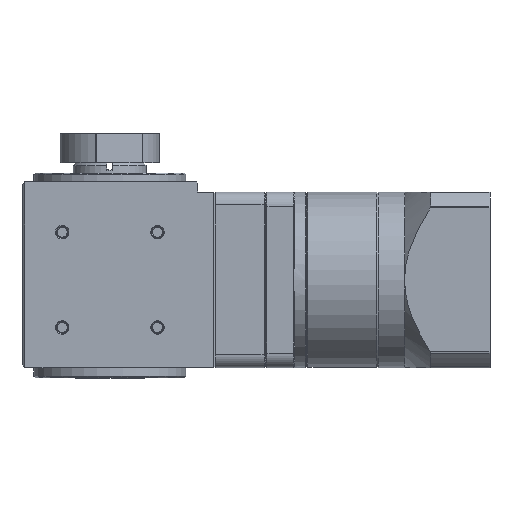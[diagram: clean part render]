
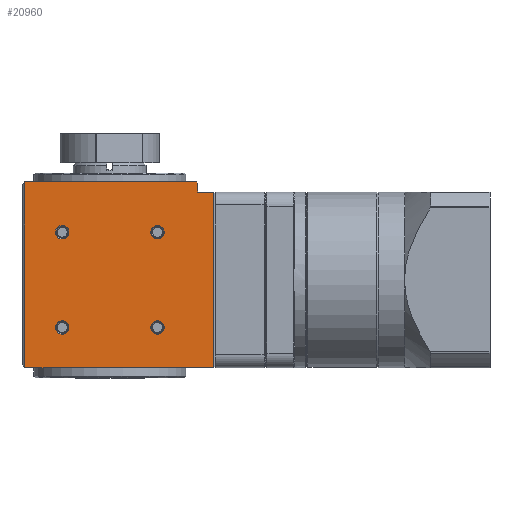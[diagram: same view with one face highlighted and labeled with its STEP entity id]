
A CAD part, left-side view. The second image highlights one B-rep face of the part: STEP entity #20960.
In plain terms, the highlighted planar face has unit normal (-1, 0, 0).
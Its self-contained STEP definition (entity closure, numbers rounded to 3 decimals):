
#48 = EDGE_CURVE ( 'NONE', #23833, #23833, #22683, .T. ) ;
#700 = EDGE_CURVE ( 'NONE', #32166, #28339, #12822, .T. ) ;
#1812 = CIRCLE ( 'NONE', #22672, 2.3 ) ;
#2095 = DIRECTION ( 'NONE',  ( 0., 0., 1. ) ) ;
#2248 = CARTESIAN_POINT ( 'NONE',  ( -30., -35.5, 0. ) ) ;
#2442 = LINE ( 'NONE', #42670, #21232 ) ;
#3472 = CARTESIAN_POINT ( 'NONE',  ( -30., -35.5, 60. ) ) ;
#3615 = DIRECTION ( 'NONE',  ( 0., 0., -1. ) ) ;
#4093 = VECTOR ( 'NONE', #3615, 1000. ) ;
#4177 = AXIS2_PLACEMENT_3D ( 'NONE', #43706, #39087, #34516 ) ;
#5269 = ORIENTED_EDGE ( 'NONE', *, *, #33826, .T. ) ;
#6177 = EDGE_CURVE ( 'NONE', #43648, #14212, #11275, .T. ) ;
#6500 = FACE_BOUND ( 'NONE', #7825, .T. ) ;
#6678 = CARTESIAN_POINT ( 'NONE',  ( -30., -35.5, 63.5 ) ) ;
#6725 = CIRCLE ( 'NONE', #41989, 2.3 ) ;
#7122 = ORIENTED_EDGE ( 'NONE', *, *, #39969, .T. ) ;
#7468 = ORIENTED_EDGE ( 'NONE', *, *, #48, .T. ) ;
#7513 = CARTESIAN_POINT ( 'NONE',  ( -30., -30., 60. ) ) ;
#7658 = FACE_BOUND ( 'NONE', #38059, .T. ) ;
#7825 = EDGE_LOOP ( 'NONE', ( #39759 ) ) ;
#7830 = VECTOR ( 'NONE', #28517, 1000. ) ;
#8046 = PLANE ( 'NONE',  #4177 ) ;
#8217 = CARTESIAN_POINT ( 'NONE',  ( -30., 29., 63.5 ) ) ;
#8345 = DIRECTION ( 'NONE',  ( 0., 1., 0. ) ) ;
#8590 = VECTOR ( 'NONE', #20761, 1000. ) ;
#8827 = FACE_BOUND ( 'NONE', #32640, .T. ) ;
#9360 = VERTEX_POINT ( 'NONE', #7513 ) ;
#10490 = DIRECTION ( 'NONE',  ( 0., 1., 0. ) ) ;
#11141 = FACE_BOUND ( 'NONE', #15345, .T. ) ;
#11275 = LINE ( 'NONE', #6678, #43464 ) ;
#12822 = LINE ( 'NONE', #8217, #4093 ) ;
#12948 = DIRECTION ( 'NONE',  ( 1., 0., 0. ) ) ;
#13077 = VECTOR ( 'NONE', #23792, 1000. ) ;
#13463 = FACE_OUTER_BOUND ( 'NONE', #32024, .T. ) ;
#14212 = VERTEX_POINT ( 'NONE', #3472 ) ;
#14441 = CARTESIAN_POINT ( 'NONE',  ( -30., 29., 63.5 ) ) ;
#14719 = ORIENTED_EDGE ( 'NONE', *, *, #6177, .T. ) ;
#14988 = VERTEX_POINT ( 'NONE', #19973 ) ;
#15089 = DIRECTION ( 'NONE',  ( 1., 0., 0. ) ) ;
#15345 = EDGE_LOOP ( 'NONE', ( #7122 ) ) ;
#15432 = EDGE_CURVE ( 'NONE', #32166, #21067, #37169, .T. ) ;
#15822 = ORIENTED_EDGE ( 'NONE', *, *, #16631, .T. ) ;
#16631 = EDGE_CURVE ( 'NONE', #28339, #43648, #32990, .T. ) ;
#16845 = ORIENTED_EDGE ( 'NONE', *, *, #38980, .T. ) ;
#16870 = CARTESIAN_POINT ( 'NONE',  ( -30., 29., 0. ) ) ;
#18018 = ORIENTED_EDGE ( 'NONE', *, *, #700, .T. ) ;
#19254 = CARTESIAN_POINT ( 'NONE',  ( -30., -13.963, 13.737 ) ) ;
#19660 = CARTESIAN_POINT ( 'NONE',  ( -30., -16.263, 46.263 ) ) ;
#19733 = EDGE_CURVE ( 'NONE', #28912, #28912, #1812, .T. ) ;
#19856 = CARTESIAN_POINT ( 'NONE',  ( -30., 16.263, 46.263 ) ) ;
#19973 = CARTESIAN_POINT ( 'NONE',  ( -30., -30., 63. ) ) ;
#20761 = DIRECTION ( 'NONE',  ( 0., 0.707, 0.707 ) ) ;
#20960 = ADVANCED_FACE ( 'NONE', ( #7658, #6500, #8827, #11141, #13463 ), #8046, .F. ) ;
#21067 = VERTEX_POINT ( 'NONE', #31524 ) ;
#21232 = VECTOR ( 'NONE', #38062, 1000. ) ;
#22107 = CARTESIAN_POINT ( 'NONE',  ( -30., -16.263, 13.737 ) ) ;
#22284 = VECTOR ( 'NONE', #27983, 1000. ) ;
#22593 = ORIENTED_EDGE ( 'NONE', *, *, #15432, .F. ) ;
#22672 = AXIS2_PLACEMENT_3D ( 'NONE', #19660, #15089, #10490 ) ;
#22683 = CIRCLE ( 'NONE', #31386, 2.3 ) ;
#23792 = DIRECTION ( 'NONE',  ( 0., -1., 0. ) ) ;
#23833 = VERTEX_POINT ( 'NONE', #19254 ) ;
#24309 = CARTESIAN_POINT ( 'NONE',  ( -30., -13.963, 46.263 ) ) ;
#24514 = EDGE_CURVE ( 'NONE', #14988, #9360, #2442, .T. ) ;
#24632 = ORIENTED_EDGE ( 'NONE', *, *, #42996, .T. ) ;
#25348 = CARTESIAN_POINT ( 'NONE',  ( -30., -29.5, 63.5 ) ) ;
#26392 = CARTESIAN_POINT ( 'NONE',  ( -30., 18.563, 46.263 ) ) ;
#27983 = DIRECTION ( 'NONE',  ( 0., -1., 0. ) ) ;
#28339 = VERTEX_POINT ( 'NONE', #16870 ) ;
#28378 = CARTESIAN_POINT ( 'NONE',  ( -30., -30., 0. ) ) ;
#28517 = DIRECTION ( 'NONE',  ( 0., 1., 0. ) ) ;
#28912 = VERTEX_POINT ( 'NONE', #24309 ) ;
#29959 = LINE ( 'NONE', #25348, #8590 ) ;
#30728 = CARTESIAN_POINT ( 'NONE',  ( -30., 18.563, 13.737 ) ) ;
#30983 = VERTEX_POINT ( 'NONE', #26392 ) ;
#31386 = AXIS2_PLACEMENT_3D ( 'NONE', #22107, #12948, #8345 ) ;
#31524 = CARTESIAN_POINT ( 'NONE',  ( -30., -29.5, 63.5 ) ) ;
#31913 = DIRECTION ( 'NONE',  ( 0., 1., 0. ) ) ;
#32024 = EDGE_LOOP ( 'NONE', ( #42141, #5269, #22593, #18018, #15822, #14719, #16845 ) ) ;
#32166 = VERTEX_POINT ( 'NONE', #14441 ) ;
#32562 = DIRECTION ( 'NONE',  ( 0., 1., 0. ) ) ;
#32592 = CARTESIAN_POINT ( 'NONE',  ( -30., -30., 63.5 ) ) ;
#32640 = EDGE_LOOP ( 'NONE', ( #7468 ) ) ;
#32990 = LINE ( 'NONE', #28378, #13077 ) ;
#33125 = CARTESIAN_POINT ( 'NONE',  ( -30., -36., 60. ) ) ;
#33826 = EDGE_CURVE ( 'NONE', #14988, #21067, #29959, .T. ) ;
#34516 = DIRECTION ( 'NONE',  ( 0., 1., 0. ) ) ;
#34898 = CIRCLE ( 'NONE', #41213, 2.3 ) ;
#35306 = VERTEX_POINT ( 'NONE', #30728 ) ;
#36513 = DIRECTION ( 'NONE',  ( 1., 0., 0. ) ) ;
#37136 = DIRECTION ( 'NONE',  ( 1., 0., 0. ) ) ;
#37169 = LINE ( 'NONE', #32592, #22284 ) ;
#37706 = LINE ( 'NONE', #33125, #7830 ) ;
#38059 = EDGE_LOOP ( 'NONE', ( #24632 ) ) ;
#38062 = DIRECTION ( 'NONE',  ( 0., 0., -1. ) ) ;
#38980 = EDGE_CURVE ( 'NONE', #14212, #9360, #37706, .T. ) ;
#39087 = DIRECTION ( 'NONE',  ( 1., 0., 0. ) ) ;
#39759 = ORIENTED_EDGE ( 'NONE', *, *, #19733, .T. ) ;
#39969 = EDGE_CURVE ( 'NONE', #35306, #35306, #6725, .T. ) ;
#41089 = CARTESIAN_POINT ( 'NONE',  ( -30., 16.263, 13.737 ) ) ;
#41213 = AXIS2_PLACEMENT_3D ( 'NONE', #19856, #37136, #32562 ) ;
#41989 = AXIS2_PLACEMENT_3D ( 'NONE', #41089, #36513, #31913 ) ;
#42141 = ORIENTED_EDGE ( 'NONE', *, *, #24514, .F. ) ;
#42670 = CARTESIAN_POINT ( 'NONE',  ( -30., -30., 63.5 ) ) ;
#42996 = EDGE_CURVE ( 'NONE', #30983, #30983, #34898, .T. ) ;
#43464 = VECTOR ( 'NONE', #2095, 1000. ) ;
#43648 = VERTEX_POINT ( 'NONE', #2248 ) ;
#43706 = CARTESIAN_POINT ( 'NONE',  ( -30., -30., 63.5 ) ) ;
